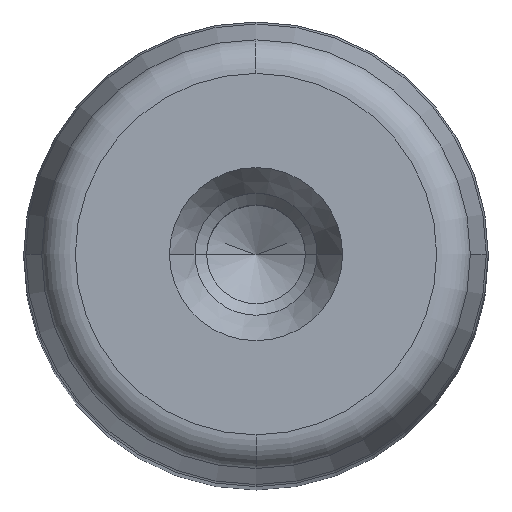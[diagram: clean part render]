
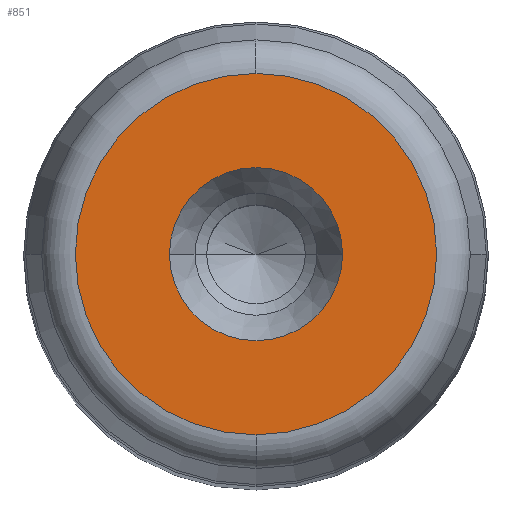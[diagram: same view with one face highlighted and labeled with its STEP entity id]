
A CAD part, top view. The second image highlights one B-rep face of the part: STEP entity #851.
In plain terms, the highlighted planar face has unit normal (0, 0, 1) as drawn and (0, 1, 0) by its records, which use the part's own axes.
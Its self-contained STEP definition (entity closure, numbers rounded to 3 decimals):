
#281=CARTESIAN_POINT('',(7.45,180.0,0.0));
#282=VERTEX_POINT('',#281);
#289=CARTESIAN_POINT('',(-7.45,180.0,0.));
#290=VERTEX_POINT('',#289);
#291=CARTESIAN_POINT('',(0.0,180.0,0.0));
#292=DIRECTION('',(0.0,1.0,0.0));
#293=DIRECTION('',(1.0,0.0,0.0));
#294=AXIS2_PLACEMENT_3D('',#291,#292,#293);
#295=CIRCLE('',#294,7.45);
#296=EDGE_CURVE('',#282,#290,#295,.T.);
#313=CARTESIAN_POINT('',(0.0,180.0,15.554));
#314=VERTEX_POINT('',#313);
#324=CARTESIAN_POINT('',(0.,180.0,-15.554));
#325=VERTEX_POINT('',#324);
#326=CARTESIAN_POINT('',(0.0,180.0,0.0));
#327=DIRECTION('',(0.0,1.0,0.0));
#328=DIRECTION('',(1.0,0.0,0.0));
#329=AXIS2_PLACEMENT_3D('',#326,#327,#328);
#330=CIRCLE('',#329,15.554);
#331=EDGE_CURVE('',#325,#314,#330,.T.);
#812=CARTESIAN_POINT('',(15.554,180.0,0.0));
#813=VERTEX_POINT('',#812);
#814=CARTESIAN_POINT('',(0.0,180.0,0.0));
#815=DIRECTION('',(0.0,1.0,0.0));
#816=DIRECTION('',(1.0,0.0,0.0));
#817=AXIS2_PLACEMENT_3D('',#814,#815,#816);
#818=CIRCLE('',#817,15.554);
#819=EDGE_CURVE('',#813,#325,#818,.T.);
#821=CARTESIAN_POINT('',(0.0,180.0,0.0));
#822=DIRECTION('',(0.0,1.0,0.0));
#823=DIRECTION('',(1.0,0.0,0.0));
#824=AXIS2_PLACEMENT_3D('',#821,#822,#823);
#825=CIRCLE('',#824,15.554);
#826=EDGE_CURVE('',#314,#813,#825,.T.);
#831=CARTESIAN_POINT('',(-17.11,180.0,-17.11));
#832=DIRECTION('',(0.0,1.0,0.0));
#833=DIRECTION('',(0.0,0.0,1.0));
#834=AXIS2_PLACEMENT_3D('',#831,#832,#833);
#835=PLANE('',#834);
#836=ORIENTED_EDGE('',*,*,#819,.T.);
#837=ORIENTED_EDGE('',*,*,#331,.T.);
#838=ORIENTED_EDGE('',*,*,#826,.T.);
#839=EDGE_LOOP('',(#836,#837,#838));
#840=FACE_OUTER_BOUND('',#839,.T.);
#841=ORIENTED_EDGE('',*,*,#296,.F.);
#842=CARTESIAN_POINT('',(0.0,180.0,0.0));
#843=DIRECTION('',(0.0,1.0,0.0));
#844=DIRECTION('',(1.0,0.0,0.0));
#845=AXIS2_PLACEMENT_3D('',#842,#843,#844);
#846=CIRCLE('',#845,7.45);
#847=EDGE_CURVE('',#290,#282,#846,.T.);
#848=ORIENTED_EDGE('',*,*,#847,.F.);
#849=EDGE_LOOP('',(#841,#848));
#850=FACE_BOUND('',#849,.T.);
#851=ADVANCED_FACE('',(#840,#850),#835,.T.);
